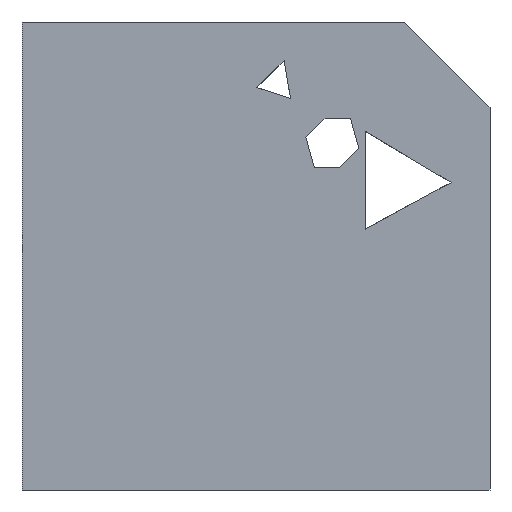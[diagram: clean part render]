
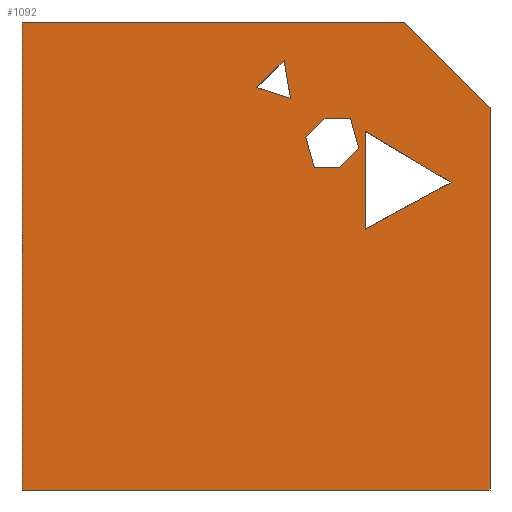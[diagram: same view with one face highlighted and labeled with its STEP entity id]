
A CAD part, front view. The second image highlights one B-rep face of the part: STEP entity #1092.
In plain terms, the highlighted planar face has unit normal (0, -1, 0).
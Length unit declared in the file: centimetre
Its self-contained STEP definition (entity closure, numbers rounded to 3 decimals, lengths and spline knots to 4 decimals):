
#10 = ORIENTED_EDGE ( 'NONE', *, *, #1053, .T. ) ;
#15 = CARTESIAN_POINT ( 'NONE',  ( 733.3159, 0., 557.4956 ) ) ;
#27 = LINE ( 'NONE', #369, #1232 ) ;
#63 = DIRECTION ( 'NONE',  ( 0., 0., -1. ) ) ;
#90 = ORIENTED_EDGE ( 'NONE', *, *, #1257, .F. ) ;
#105 = CARTESIAN_POINT ( 'NONE',  ( 624.7388, 0., 689.1865 ) ) ;
#106 = VERTEX_POINT ( 'NONE', #895 ) ;
#109 = ORIENTED_EDGE ( 'NONE', *, *, #1404, .T. ) ;
#117 = DIRECTION ( 'NONE',  ( 0.707, 0., 0.707 ) ) ;
#125 = DIRECTION ( 'NONE',  ( 0., 0., -1. ) ) ;
#143 = LINE ( 'NONE', #372, #200 ) ;
#147 = LINE ( 'NONE', #1226, #1258 ) ;
#157 = DIRECTION ( 'NONE',  ( 1., 0., 0. ) ) ;
#169 = CARTESIAN_POINT ( 'NONE',  ( 573.8579, 0., 836.6118 ) ) ;
#171 = LINE ( 'NONE', #1348, #1462 ) ;
#184 = ORIENTED_EDGE ( 'NONE', *, *, #677, .T. ) ;
#185 = CARTESIAN_POINT ( 'NONE',  ( 0., 0., 0. ) ) ;
#198 = EDGE_CURVE ( 'NONE', #938, #391, #1253, .T. ) ;
#200 = VECTOR ( 'NONE', #157, 100. ) ;
#218 = DIRECTION ( 'NONE',  ( 0.272, 0., -0.962 ) ) ;
#221 = ORIENTED_EDGE ( 'NONE', *, *, #198, .T. ) ;
#222 = ORIENTED_EDGE ( 'NONE', *, *, #1143, .T. ) ;
#232 = VERTEX_POINT ( 'NONE', #914 ) ;
#237 = VERTEX_POINT ( 'NONE', #1268 ) ;
#245 = LINE ( 'NONE', #264, #906 ) ;
#255 = CARTESIAN_POINT ( 'NONE',  ( 719.9715, 0., 730.0681 ) ) ;
#264 = CARTESIAN_POINT ( 'NONE',  ( 733.3159, 0., 766.3722 ) ) ;
#270 = CARTESIAN_POINT ( 'NONE',  ( 501.8559, 0., 859.7959 ) ) ;
#272 = CARTESIAN_POINT ( 'NONE',  ( 573.8579, 0., 836.6118 ) ) ;
#274 = CARTESIAN_POINT ( 'NONE',  ( 647.4372, 0., 794.438 ) ) ;
#281 = DIRECTION ( 'NONE',  ( -0.952, 0., 0.306 ) ) ;
#292 = CARTESIAN_POINT ( 'NONE',  ( 916.9694, 0., 657.1516 ) ) ;
#313 = EDGE_LOOP ( 'NONE', ( #1070, #529, #222 ) ) ;
#333 = EDGE_LOOP ( 'NONE', ( #221, #1549, #1306 ) ) ;
#352 = EDGE_LOOP ( 'NONE', ( #742, #1284, #1088, #109, #10, #571 ) ) ;
#362 = EDGE_CURVE ( 'NONE', #1332, #655, #981, .T. ) ;
#365 = DIRECTION ( 'NONE',  ( -0.707, 0., 0.707 ) ) ;
#369 = CARTESIAN_POINT ( 'NONE',  ( 0., 0., 1000. ) ) ;
#372 = CARTESIAN_POINT ( 'NONE',  ( 647.4372, 0., 794.438 ) ) ;
#391 = VERTEX_POINT ( 'NONE', #15 ) ;
#416 = EDGE_LOOP ( 'NONE', ( #833, #1528, #90, #1422, #184 ) ) ;
#426 = CARTESIAN_POINT ( 'NONE',  ( 816.4754, 0., 1000. ) ) ;
#438 = DIRECTION ( 'NONE',  ( -0.879, 0., -0.477 ) ) ;
#439 = VERTEX_POINT ( 'NONE', #512 ) ;
#442 = VECTOR ( 'NONE', #1500, 100. ) ;
#445 = FACE_BOUND ( 'NONE', #352, .T. ) ;
#454 = DIRECTION ( 'NONE',  ( 0., 1., 0. ) ) ;
#457 = VERTEX_POINT ( 'NONE', #274 ) ;
#462 = FACE_BOUND ( 'NONE', #333, .T. ) ;
#470 = PLANE ( 'NONE',  #1029 ) ;
#487 = EDGE_CURVE ( 'NONE', #106, #938, #1376, .T. ) ;
#490 = VERTEX_POINT ( 'NONE', #1477 ) ;
#512 = CARTESIAN_POINT ( 'NONE',  ( 679.0899, 0., 689.1865 ) ) ;
#513 = EDGE_CURVE ( 'NONE', #490, #852, #1354, .T. ) ;
#529 = ORIENTED_EDGE ( 'NONE', *, *, #1329, .T. ) ;
#538 = CARTESIAN_POINT ( 'NONE',  ( 1000., 0., 816.4754 ) ) ;
#546 = CARTESIAN_POINT ( 'NONE',  ( 701.7882, 0., 794.438 ) ) ;
#562 = FACE_BOUND ( 'NONE', #313, .T. ) ;
#563 = VERTEX_POINT ( 'NONE', #1162 ) ;
#571 = ORIENTED_EDGE ( 'NONE', *, *, #1265, .T. ) ;
#576 = VECTOR ( 'NONE', #1155, 100. ) ;
#628 = CARTESIAN_POINT ( 'NONE',  ( 1000., 0., 0. ) ) ;
#641 = CARTESIAN_POINT ( 'NONE',  ( 679.0899, 0., 689.1865 ) ) ;
#655 = VERTEX_POINT ( 'NONE', #426 ) ;
#667 = VECTOR ( 'NONE', #438, 100. ) ;
#677 = EDGE_CURVE ( 'NONE', #1519, #1391, #1168, .T. ) ;
#701 = VECTOR ( 'NONE', #125, 100. ) ;
#731 = DIRECTION ( 'NONE',  ( 0., 0., 1. ) ) ;
#742 = ORIENTED_EDGE ( 'NONE', *, *, #791, .T. ) ;
#746 = DIRECTION ( 'NONE',  ( -1., 0., 0. ) ) ;
#774 = DIRECTION ( 'NONE',  ( -0.707, 0., -0.707 ) ) ;
#791 = EDGE_CURVE ( 'NONE', #457, #1139, #143, .T. ) ;
#807 = CARTESIAN_POINT ( 'NONE',  ( 0., 0., 1000. ) ) ;
#833 = ORIENTED_EDGE ( 'NONE', *, *, #1304, .F. ) ;
#849 = LINE ( 'NONE', #1211, #701 ) ;
#852 = VERTEX_POINT ( 'NONE', #272 ) ;
#857 = VECTOR ( 'NONE', #117, 100. ) ;
#864 = LINE ( 'NONE', #641, #1352 ) ;
#895 = CARTESIAN_POINT ( 'NONE',  ( 733.3159, 0., 766.3722 ) ) ;
#906 = VECTOR ( 'NONE', #731, 100. ) ;
#913 = CARTESIAN_POINT ( 'NONE',  ( 624.7388, 0., 689.1865 ) ) ;
#914 = CARTESIAN_POINT ( 'NONE',  ( 501.8559, 0., 859.7959 ) ) ;
#919 = CARTESIAN_POINT ( 'NONE',  ( 916.9694, 0., 657.1516 ) ) ;
#922 = VECTOR ( 'NONE', #1140, 100. ) ;
#923 = VERTEX_POINT ( 'NONE', #913 ) ;
#925 = LINE ( 'NONE', #546, #1296 ) ;
#931 = VECTOR ( 'NONE', #1427, 100. ) ;
#938 = VERTEX_POINT ( 'NONE', #919 ) ;
#981 = LINE ( 'NONE', #1082, #1199 ) ;
#982 = VECTOR ( 'NONE', #1471, 100. ) ;
#1029 = AXIS2_PLACEMENT_3D ( 'NONE', #807, #454, #1525 ) ;
#1053 = EDGE_CURVE ( 'NONE', #923, #563, #1440, .T. ) ;
#1070 = ORIENTED_EDGE ( 'NONE', *, *, #513, .T. ) ;
#1077 = LINE ( 'NONE', #1535, #857 ) ;
#1082 = CARTESIAN_POINT ( 'NONE',  ( 816.4754, 0., 1000. ) ) ;
#1088 = ORIENTED_EDGE ( 'NONE', *, *, #1318, .T. ) ;
#1092 = ADVANCED_FACE ( 'NONE', ( #562, #462, #445, #1412 ), #470, .F. ) ;
#1139 = VERTEX_POINT ( 'NONE', #1173 ) ;
#1140 = DIRECTION ( 'NONE',  ( 0.859, 0., -0.511 ) ) ;
#1143 = EDGE_CURVE ( 'NONE', #232, #490, #1077, .T. ) ;
#1155 = DIRECTION ( 'NONE',  ( 1., 0., 0. ) ) ;
#1162 = CARTESIAN_POINT ( 'NONE',  ( 606.5556, 0., 753.5564 ) ) ;
#1168 = LINE ( 'NONE', #185, #576 ) ;
#1173 = CARTESIAN_POINT ( 'NONE',  ( 701.7882, 0., 794.438 ) ) ;
#1178 = CARTESIAN_POINT ( 'NONE',  ( 0., 0., 0. ) ) ;
#1189 = EDGE_CURVE ( 'NONE', #237, #1519, #849, .T. ) ;
#1199 = VECTOR ( 'NONE', #365, 100. ) ;
#1211 = CARTESIAN_POINT ( 'NONE',  ( 0., 0., 1000. ) ) ;
#1220 = VERTEX_POINT ( 'NONE', #255 ) ;
#1226 = CARTESIAN_POINT ( 'NONE',  ( 1000., 0., 1000. ) ) ;
#1232 = VECTOR ( 'NONE', #1356, 100. ) ;
#1236 = EDGE_CURVE ( 'NONE', #391, #106, #245, .T. ) ;
#1239 = LINE ( 'NONE', #270, #1310 ) ;
#1253 = LINE ( 'NONE', #1503, #667 ) ;
#1257 = EDGE_CURVE ( 'NONE', #237, #655, #27, .T. ) ;
#1258 = VECTOR ( 'NONE', #63, 100. ) ;
#1265 = EDGE_CURVE ( 'NONE', #563, #457, #1362, .T. ) ;
#1268 = CARTESIAN_POINT ( 'NONE',  ( 0., 0., 1000. ) ) ;
#1284 = ORIENTED_EDGE ( 'NONE', *, *, #1424, .T. ) ;
#1296 = VECTOR ( 'NONE', #218, 100. ) ;
#1304 = EDGE_CURVE ( 'NONE', #1332, #1391, #147, .T. ) ;
#1306 = ORIENTED_EDGE ( 'NONE', *, *, #487, .T. ) ;
#1310 = VECTOR ( 'NONE', #281, 100. ) ;
#1318 = EDGE_CURVE ( 'NONE', #1220, #439, #171, .T. ) ;
#1329 = EDGE_CURVE ( 'NONE', #852, #232, #1239, .T. ) ;
#1332 = VERTEX_POINT ( 'NONE', #538 ) ;
#1348 = CARTESIAN_POINT ( 'NONE',  ( 719.9715, 0., 730.0681 ) ) ;
#1352 = VECTOR ( 'NONE', #746, 100. ) ;
#1354 = LINE ( 'NONE', #169, #442 ) ;
#1356 = DIRECTION ( 'NONE',  ( 1., 0., 0. ) ) ;
#1362 = LINE ( 'NONE', #1368, #982 ) ;
#1368 = CARTESIAN_POINT ( 'NONE',  ( 606.5556, 0., 753.5564 ) ) ;
#1376 = LINE ( 'NONE', #292, #922 ) ;
#1391 = VERTEX_POINT ( 'NONE', #628 ) ;
#1404 = EDGE_CURVE ( 'NONE', #439, #923, #864, .T. ) ;
#1412 = FACE_OUTER_BOUND ( 'NONE', #416, .T. ) ;
#1422 = ORIENTED_EDGE ( 'NONE', *, *, #1189, .T. ) ;
#1424 = EDGE_CURVE ( 'NONE', #1139, #1220, #925, .T. ) ;
#1427 = DIRECTION ( 'NONE',  ( -0.272, 0., 0.962 ) ) ;
#1440 = LINE ( 'NONE', #105, #931 ) ;
#1462 = VECTOR ( 'NONE', #774, 100. ) ;
#1471 = DIRECTION ( 'NONE',  ( 0.707, 0., 0.707 ) ) ;
#1477 = CARTESIAN_POINT ( 'NONE',  ( 559.8804, 0., 917.8204 ) ) ;
#1500 = DIRECTION ( 'NONE',  ( 0.17, 0., -0.986 ) ) ;
#1503 = CARTESIAN_POINT ( 'NONE',  ( 733.3159, 0., 557.4956 ) ) ;
#1519 = VERTEX_POINT ( 'NONE', #1178 ) ;
#1525 = DIRECTION ( 'NONE',  ( 0., 0., 1. ) ) ;
#1528 = ORIENTED_EDGE ( 'NONE', *, *, #362, .T. ) ;
#1535 = CARTESIAN_POINT ( 'NONE',  ( 559.8804, 0., 917.8204 ) ) ;
#1549 = ORIENTED_EDGE ( 'NONE', *, *, #1236, .T. ) ;
